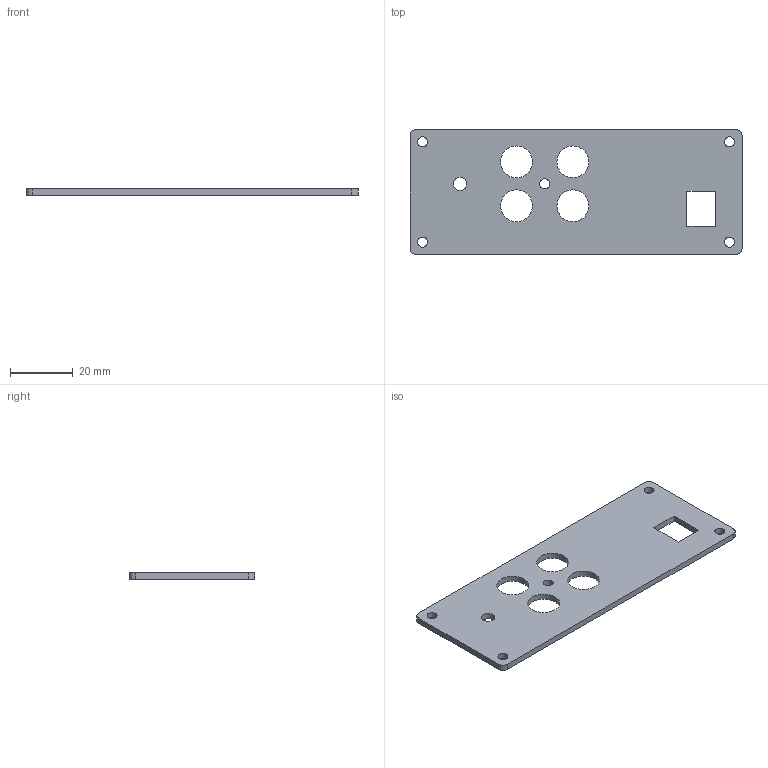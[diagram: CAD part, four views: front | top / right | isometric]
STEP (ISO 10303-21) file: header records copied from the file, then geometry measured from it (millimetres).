
FILE_DESCRIPTION(('FreeCAD Model'),'2;1');
FILE_NAME('/home/michael/Desktop/Classic Audio/Enclosure Design/Spartan 5/Export/Rear plate.step','2022-07-25T11:10:33',('Author'),(''), 'Open CASCADE STEP processor 7.3','FreeCAD','Unknown');
FILE_SCHEMA(('AUTOMOTIVE_DESIGN { 1 0 10303 214 1 1 1 1 }'));
Length unit declared in the file: millimetre
Products named in the file (1): Body
Bounding box: 106 x 40 x 2 mm (x, y, z)
Volume: 7505.2 mm3; surface area: 8547.2 mm2
Topology: 1 solids, 1 shells, 24 faces, 66 edges, 44 vertices
Faces by surface type: cylinder 14, plane 10
Full cylindrical faces by diameter (mm): 3.2 x5, 4.2 x1, 10.2 x4
Entity records: 1785 total; most frequent: CARTESIAN_POINT 435, DIRECTION 248, LINE 142, VECTOR 142, ORIENTED_EDGE 132, PCURVE 132, DEFINITIONAL_REPRESENTATION 132, EDGE_CURVE 66
